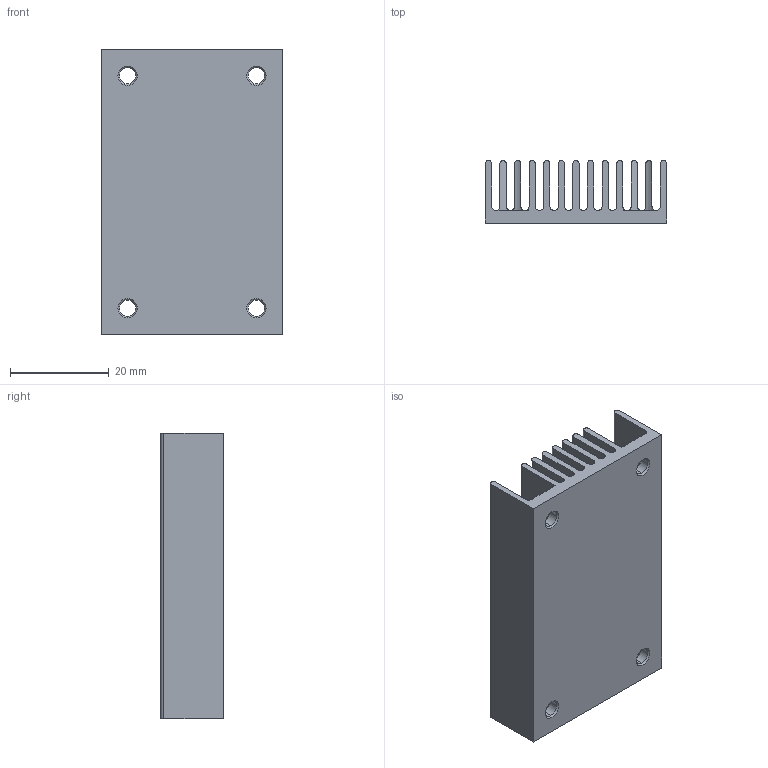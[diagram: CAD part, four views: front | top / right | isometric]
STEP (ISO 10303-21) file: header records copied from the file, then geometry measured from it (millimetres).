
FILE_DESCRIPTION (( 'STEP AP203' ), '1' );
FILE_NAME ('QB鋁擠型散熱片58x36.8x12.7mm(M-C448-00-A)G6620570202.STEP', '2022-07-28T02:46:11', ( 'cincon' ), ( '' ), 'SwSTEP 2.0', 'SolidWorks 2020', '' );
FILE_SCHEMA (( 'CONFIG_CONTROL_DESIGN' ));
Length unit declared in the file: millimetre
Products named in the file (1): QB鋁擠型散熱片58x36.8x12.7mm(M-C448-00-A)G6620570202
Bounding box: 36.8 x 12.7 x 58 mm (x, y, z)
Volume: 14262.5 mm3; surface area: 18243.1 mm2
Topology: 1 solids, 1 shells, 123 faces, 359 edges, 234 vertices
Faces by surface type: cylinder 54, plane 53, torus 8, cone 8
Entity records: 4466 total; most frequent: CARTESIAN_POINT 1104, ORIENTED_EDGE 718, DIRECTION 673, EDGE_CURVE 359, AXIS2_PLACEMENT_3D 235, VERTEX_POINT 234, LINE 203, VECTOR 203
